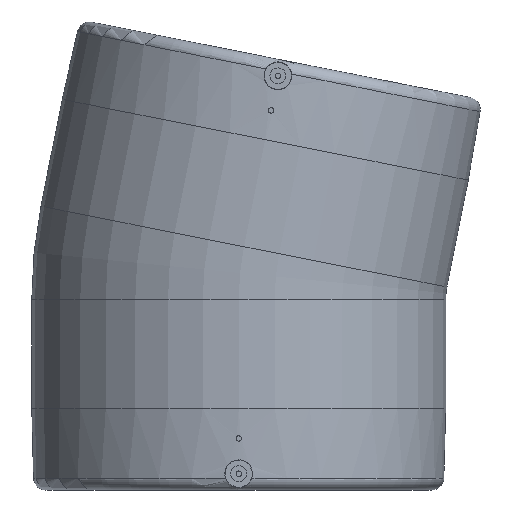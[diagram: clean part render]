
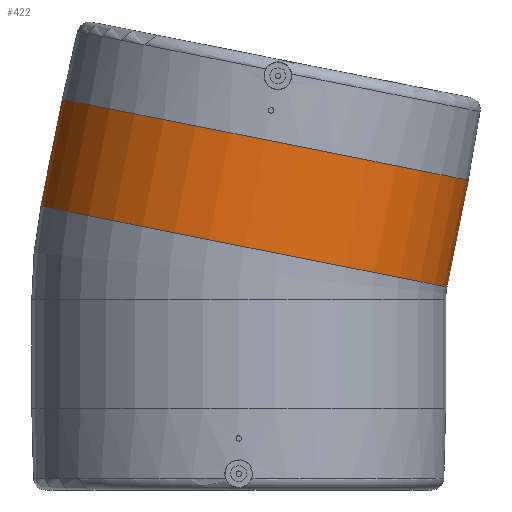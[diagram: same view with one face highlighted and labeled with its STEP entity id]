
A CAD part, front view. The second image highlights one B-rep face of the part: STEP entity #422.
In plain terms, the highlighted cylindrical face has radius 152.5 mm (diameter 305 mm), a full revolution.
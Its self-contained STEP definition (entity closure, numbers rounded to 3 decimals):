
#55=CYLINDRICAL_SURFACE('',#500,152.5);
#133=ORIENTED_EDGE('',*,*,#185,.T.);
#134=ORIENTED_EDGE('',*,*,#187,.T.);
#185=EDGE_CURVE('',#228,#228,#256,.F.);
#187=EDGE_CURVE('',#230,#230,#258,.T.);
#228=VERTEX_POINT('',#811);
#230=VERTEX_POINT('',#817);
#256=CIRCLE('',#497,152.5);
#258=CIRCLE('',#501,152.5);
#311=EDGE_LOOP('',(#133));
#312=EDGE_LOOP('',(#134));
#372=FACE_BOUND('',#311,.T.);
#373=FACE_BOUND('',#312,.T.);
#422=ADVANCED_FACE('',(#372,#373),#55,.T.);
#497=AXIS2_PLACEMENT_3D('',#810,#624,#625);
#500=AXIS2_PLACEMENT_3D('',#815,#630,#631);
#501=AXIS2_PLACEMENT_3D('',#816,#632,#633);
#624=DIRECTION('',(-0.195,0.,-0.981));
#625=DIRECTION('',(0.981,0.,-0.195));
#630=DIRECTION('',(0.195,0.,0.981));
#631=DIRECTION('',(0.981,0.,-0.195));
#632=DIRECTION('',(-0.195,0.,-0.981));
#633=DIRECTION('',(-0.981,0.,0.195));
#810=CARTESIAN_POINT('',(3.843,0.,19.32));
#811=CARTESIAN_POINT('',(153.413,0.,-10.431));
#815=CARTESIAN_POINT('',(3.843,0.,19.32));
#816=CARTESIAN_POINT('',(19.509,0.,98.079));
#817=CARTESIAN_POINT('',(-130.061,0.,127.83));
